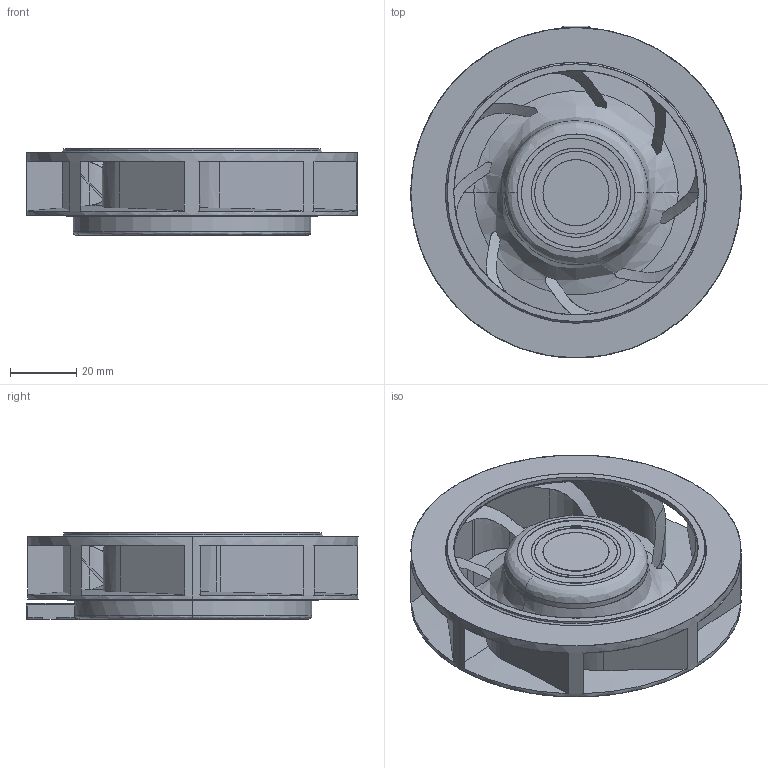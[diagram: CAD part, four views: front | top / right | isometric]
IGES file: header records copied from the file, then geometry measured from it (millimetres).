
Start section: SolidWorks IGES file using analytic representation for surfaces
Global section: file name: C:\Users\Okuda-Yuusuke\Desktop\公開用3D\【公開用３D】φ100x25_9TM\100x25TM.IGS; native system: SolidWorks 2016; preprocessor: SolidWorks 2016; author: Okuda-Yuusuke; date: 170201.141453; units: millimetre
Bounding box: 100 x 100.5 x 26.15 mm (x, y, z)
Surface area: 37463.5 mm2 (no closed solid volume)
Topology: 0 solids, 0 shells, 239 faces, 3344 edges, 3338 vertices
Faces by surface type: revolution 135, bspline 104
